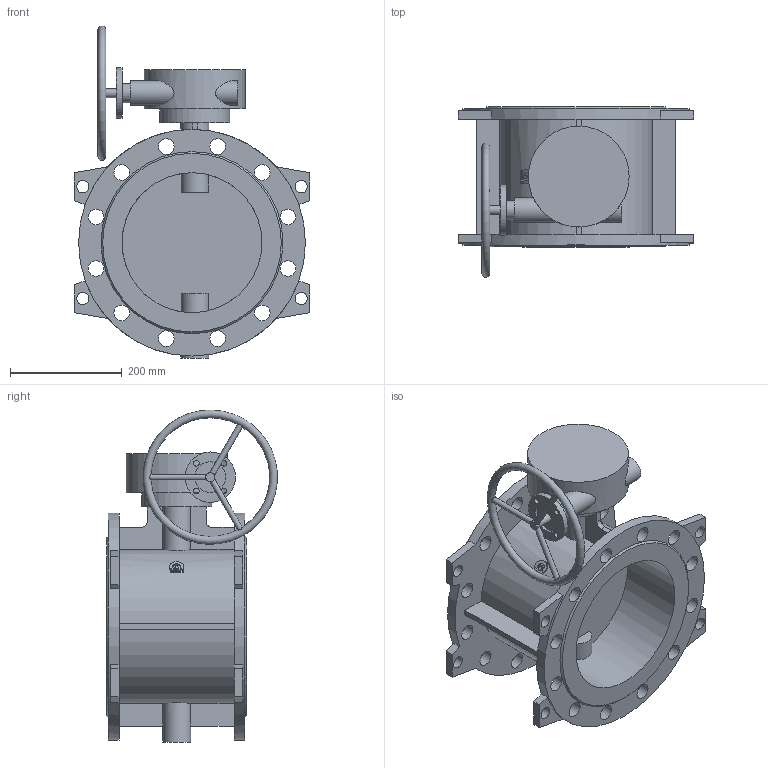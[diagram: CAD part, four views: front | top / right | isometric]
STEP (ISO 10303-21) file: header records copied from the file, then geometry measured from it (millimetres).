
FILE_DESCRIPTION(('STEP AP203'), '1');
FILE_NAME('Çàòâîð 023F.Z DN250 PN16_ìàõ', '', ('UNSPECIFIED'), ('UNSPECIFIED'), 'ASCON STEP Converter 1.6', 'ASCON Math Kernel', '');
FILE_SCHEMA(('CONFIG_CONTROL_DESIGN'));
Length unit declared in the file: millimetre
Bounding box: 420 x 304.73 x 592.99 mm (x, y, z)
Volume: 9684723.1 mm3; surface area: 1099943.8 mm2
Topology: 1 solids, 1 shells, 170 faces, 431 edges, 287 vertices
Faces by surface type: plane 90, cylinder 77, cone 2, torus 1
Full cylindrical faces by diameter (mm): 8.3 x4, 10 x7, 12 x4, 16 x1, 22 x8, 28 x24, 34 x1, 44 x1, 50 x1, 55 x1, 90 x1, 125 x1, 180 x1, 250 x2, 405 x2
Entity records: 8789 total; most frequent: CARTESIAN_POINT 3277, DIRECTION 843, ORIENTED_EDGE 734, EDGE_CURVE 367, EDGE_LOOP 333, AXIS2_PLACEMENT_3D 331, VERTEX_POINT 286, FACE_BOUND 216
